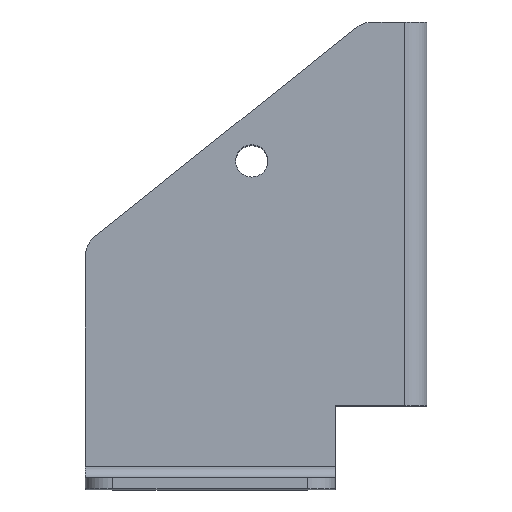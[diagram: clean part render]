
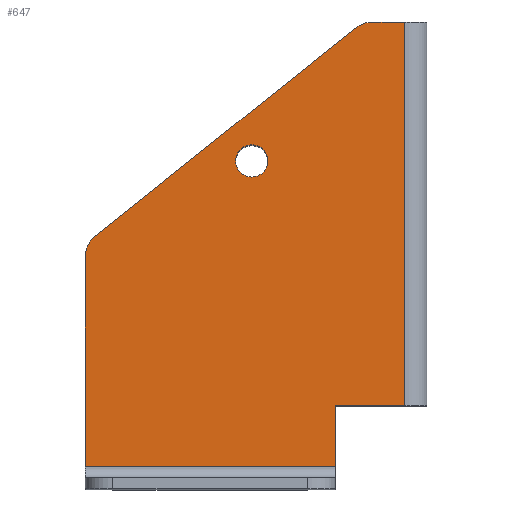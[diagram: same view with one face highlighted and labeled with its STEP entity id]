
A CAD part, top view. The second image highlights one B-rep face of the part: STEP entity #647.
In plain terms, the highlighted planar face has unit normal (0, 0, 1).
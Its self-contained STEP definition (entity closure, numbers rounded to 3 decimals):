
#12 = ORIENTED_EDGE ( 'NONE', *, *, #1538, .T. ) ;
#31 = EDGE_CURVE ( 'NONE', #282, #282, #925, .T. ) ;
#75 = CARTESIAN_POINT ( 'NONE',  ( -4., 69., 51. ) ) ;
#85 = LINE ( 'NONE', #602, #1988 ) ;
#87 = ORIENTED_EDGE ( 'NONE', *, *, #31, .T. ) ;
#128 = AXIS2_PLACEMENT_3D ( 'NONE', #684, #696, #471 ) ;
#141 = EDGE_CURVE ( 'NONE', #1614, #1828, #2148, .T. ) ;
#160 = CARTESIAN_POINT ( 'NONE',  ( -16.5, -11., 51. ) ) ;
#170 = CARTESIAN_POINT ( 'NONE',  ( -61.5, 69., 51. ) ) ;
#180 = DIRECTION ( 'NONE',  ( 0., 1., 0. ) ) ;
#193 = DIRECTION ( 'NONE',  ( 0., -1., 0. ) ) ;
#195 = CARTESIAN_POINT ( 'NONE',  ( -16.5, 0., 51. ) ) ;
#199 = VECTOR ( 'NONE', #180, 1000. ) ;
#264 = DIRECTION ( 'NONE',  ( -1., 0., 0. ) ) ;
#273 = ORIENTED_EDGE ( 'NONE', *, *, #1428, .T. ) ;
#278 = VERTEX_POINT ( 'NONE', #160 ) ;
#282 = VERTEX_POINT ( 'NONE', #1118 ) ;
#285 = LINE ( 'NONE', #2187, #1772 ) ;
#344 = AXIS2_PLACEMENT_3D ( 'NONE', #1341, #1506, #1167 ) ;
#391 = EDGE_CURVE ( 'NONE', #2018, #926, #1401, .T. ) ;
#397 = DIRECTION ( 'NONE',  ( 0., 0., 1. ) ) ;
#471 = DIRECTION ( 'NONE',  ( 1., 0., 0. ) ) ;
#530 = VECTOR ( 'NONE', #854, 1000. ) ;
#554 = ORIENTED_EDGE ( 'NONE', *, *, #581, .F. ) ;
#581 = EDGE_CURVE ( 'NONE', #278, #664, #2164, .T. ) ;
#602 = CARTESIAN_POINT ( 'NONE',  ( 0., 69., 51. ) ) ;
#647 = ADVANCED_FACE ( 'NONE', ( #863, #1008 ), #1504, .T. ) ;
#652 = CARTESIAN_POINT ( 'NONE',  ( -61.5, -11., 51. ) ) ;
#664 = VERTEX_POINT ( 'NONE', #652 ) ;
#684 = CARTESIAN_POINT ( 'NONE',  ( 0., 69., 51. ) ) ;
#696 = DIRECTION ( 'NONE',  ( 0., 0., 1. ) ) ;
#732 = CARTESIAN_POINT ( 'NONE',  ( -9.746, 64., 51. ) ) ;
#734 = ORIENTED_EDGE ( 'NONE', *, *, #2194, .T. ) ;
#767 = EDGE_CURVE ( 'NONE', #1837, #664, #1708, .T. ) ;
#781 = ORIENTED_EDGE ( 'NONE', *, *, #1774, .F. ) ;
#800 = DIRECTION ( 'NONE',  ( -1., 0., 0. ) ) ;
#820 = ORIENTED_EDGE ( 'NONE', *, *, #1607, .T. ) ;
#854 = DIRECTION ( 'NONE',  ( 0., -1., 0. ) ) ;
#863 = FACE_BOUND ( 'NONE', #1591, .T. ) ;
#902 = DIRECTION ( 'NONE',  ( 0., 0., -1. ) ) ;
#925 = CIRCLE ( 'NONE', #1364, 2.9 ) ;
#926 = VERTEX_POINT ( 'NONE', #1612 ) ;
#994 = CARTESIAN_POINT ( 'NONE',  ( -61.5, 26.597, 51. ) ) ;
#1008 = FACE_OUTER_BOUND ( 'NONE', #1945, .T. ) ;
#1064 = AXIS2_PLACEMENT_3D ( 'NONE', #732, #397, #1767 ) ;
#1069 = VERTEX_POINT ( 'NONE', #195 ) ;
#1088 = VECTOR ( 'NONE', #1628, 1000. ) ;
#1095 = CARTESIAN_POINT ( 'NONE',  ( -4., 69., 51. ) ) ;
#1118 = CARTESIAN_POINT ( 'NONE',  ( -28.6, 44., 51. ) ) ;
#1162 = CARTESIAN_POINT ( 'NONE',  ( -12.87, 67.904, 51. ) ) ;
#1167 = DIRECTION ( 'NONE',  ( 1., 0., 0. ) ) ;
#1208 = VECTOR ( 'NONE', #264, 1000. ) ;
#1222 = DIRECTION ( 'NONE',  ( 1., 0., 0. ) ) ;
#1292 = ORIENTED_EDGE ( 'NONE', *, *, #767, .T. ) ;
#1294 = ORIENTED_EDGE ( 'NONE', *, *, #141, .F. ) ;
#1316 = ORIENTED_EDGE ( 'NONE', *, *, #391, .F. ) ;
#1341 = CARTESIAN_POINT ( 'NONE',  ( -56.5, 26.597, 51. ) ) ;
#1352 = CARTESIAN_POINT ( 'NONE',  ( -16.5, -11., 51. ) ) ;
#1364 = AXIS2_PLACEMENT_3D ( 'NONE', #1719, #902, #1222 ) ;
#1401 = LINE ( 'NONE', #1095, #1698 ) ;
#1428 = EDGE_CURVE ( 'NONE', #1614, #1837, #1488, .T. ) ;
#1440 = CARTESIAN_POINT ( 'NONE',  ( -59.623, 30.501, 51. ) ) ;
#1488 = CIRCLE ( 'NONE', #344, 5. ) ;
#1504 = PLANE ( 'NONE',  #128 ) ;
#1506 = DIRECTION ( 'NONE',  ( 0., 0., 1. ) ) ;
#1538 = EDGE_CURVE ( 'NONE', #278, #1069, #1890, .T. ) ;
#1591 = EDGE_LOOP ( 'NONE', ( #87 ) ) ;
#1607 = EDGE_CURVE ( 'NONE', #1797, #1828, #2171, .T. ) ;
#1612 = CARTESIAN_POINT ( 'NONE',  ( -4., 0., 51. ) ) ;
#1614 = VERTEX_POINT ( 'NONE', #1440 ) ;
#1628 = DIRECTION ( 'NONE',  ( 0.781, 0.625, 0. ) ) ;
#1646 = CARTESIAN_POINT ( 'NONE',  ( -9.746, 69., 51. ) ) ;
#1669 = DIRECTION ( 'NONE',  ( -1., 0., 0. ) ) ;
#1698 = VECTOR ( 'NONE', #193, 1000. ) ;
#1708 = LINE ( 'NONE', #170, #530 ) ;
#1719 = CARTESIAN_POINT ( 'NONE',  ( -31.5, 44., 51. ) ) ;
#1767 = DIRECTION ( 'NONE',  ( 1., 0., 0. ) ) ;
#1771 = CARTESIAN_POINT ( 'NONE',  ( -4.488, 74.61, 51. ) ) ;
#1772 = VECTOR ( 'NONE', #1669, 1000. ) ;
#1774 = EDGE_CURVE ( 'NONE', #926, #1069, #285, .T. ) ;
#1797 = VERTEX_POINT ( 'NONE', #1646 ) ;
#1828 = VERTEX_POINT ( 'NONE', #1162 ) ;
#1837 = VERTEX_POINT ( 'NONE', #994 ) ;
#1890 = LINE ( 'NONE', #1352, #199 ) ;
#1945 = EDGE_LOOP ( 'NONE', ( #734, #820, #1294, #273, #1292, #554, #12, #781, #1316 ) ) ;
#1967 = CARTESIAN_POINT ( 'NONE',  ( -16.5, -11., 51. ) ) ;
#1988 = VECTOR ( 'NONE', #800, 1000. ) ;
#2018 = VERTEX_POINT ( 'NONE', #75 ) ;
#2148 = LINE ( 'NONE', #1771, #1088 ) ;
#2164 = LINE ( 'NONE', #1967, #1208 ) ;
#2171 = CIRCLE ( 'NONE', #1064, 5. ) ;
#2187 = CARTESIAN_POINT ( 'NONE',  ( 0., 0., 51. ) ) ;
#2194 = EDGE_CURVE ( 'NONE', #2018, #1797, #85, .T. ) ;
